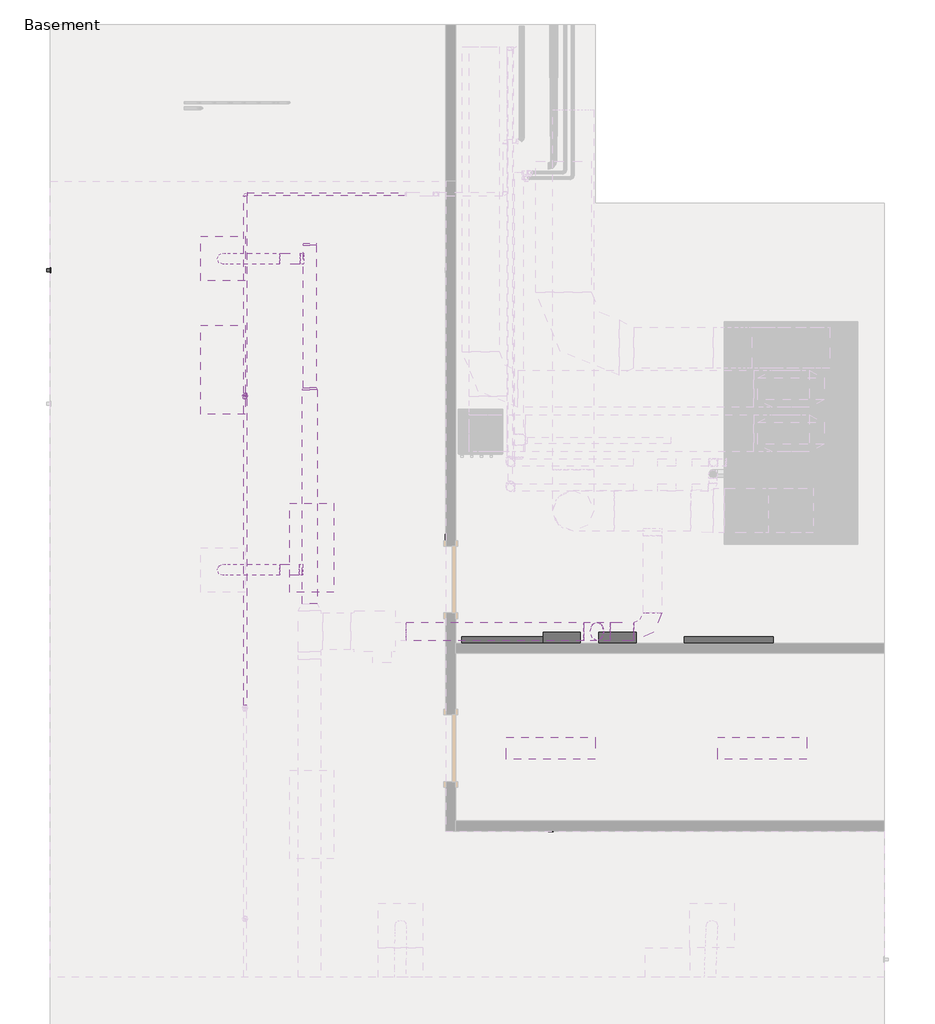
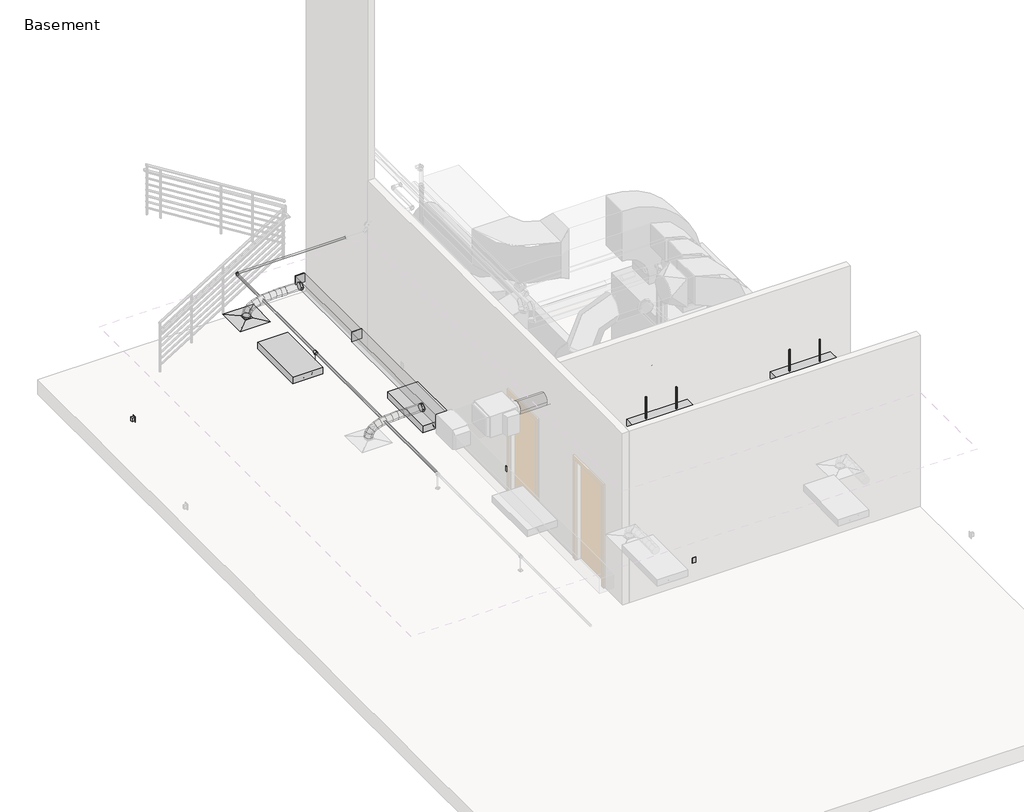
# One storey, part 4 of 6: 9 duct segments, 7 duct fittings, 6 light fixtures, 4 pipe segments, 4 proxies, 3 pipe fittings, 1 air terminal, 1 fire suppression terminal, 1 switching device.
"""IFC4 building model written with IfcOpenShell, lengths in millimetres."""

from ifc_helpers import new_model, si_unit, point, frame, frame_2d, origin, place, context, project, spatial, polyline, circle_curve, ellipse_curve, trimmed, segment, composite_curve, outline, extrude, transform, mapped, element, save
from ifc_brep_helpers import plane_surface, cylinder_surface, advanced_brep
from components import rectangular_diffuser_round_connection_24x24_6_neck_a21b6d18, proxy_208v_mcb_lighting_and_appliance_panelboard_surface_b4f8874f, proxy_220v_mcb_lighting_and_appliance_panelboard_surface_634b3572, receptacle_gfci_367a9a66, rectangular_duct_endcap_standard_257c1d85, rectangular_duct_transition_standard_54502f12, round_duct_elbow_1_d_c5153b07, round_duct_elbow_1_d_1086c2ae, round_duct_takeoff_standard_3fff5fc7, fire_suppression_terminal_51680e4f, pendant_lighting_fixture_1x4_120v_a2b2c7f0, light_fixture_84ca9390, strip_lighting_fixtures_c3f5e0e3, pipe_elbow1_standard_2_557be1fc, pipe_tee_standard_7127fd44, pipe_transition_eccentric_standard_4aeee749

model = new_model("IFC4")

# Units and contexts
model_context = context("Model", 3, world=origin())
ifc_project = project(units=[si_unit("LENGTHUNIT", "METRE", prefix="MILLI")], contexts=[model_context])

# Site, building, storey
site = spatial("IfcSite", under=ifc_project)
building = spatial("IfcBuilding", under=site)
storey = spatial("IfcBuildingStorey", under=building, Name="Basement", Elevation=-3657.6)

# Air terminal
placement = place(None, origin())
rectangular_diffuser_round_connection_24x24_6_neck_shape = rectangular_diffuser_round_connection_24x24_6_neck_a21b6d18(model_context)
element("IfcAirTerminal", 1, ObjectType="Rectangular Diffuser - Round Connection : 24x24 - 6 Neck", at=placement, inside=storey, context=model_context, shape_type="MappedRepresentation", body=[
    mapped(rectangular_diffuser_round_connection_24x24_6_neck_shape, transform((-2104.8439612, 8396.709643, -1219.2), x_axis=(1.0, 0.0, 0.0), y_axis=(0.0, 1.0, 0.0), z_axis=(0.0, 0.0, 1.0))),
])

# Proxies
proxy_208v_mcb_lighting_and_appliance_panelboard_surface_shape = proxy_208v_mcb_lighting_and_appliance_panelboard_surface_b4f8874f(model_context)
element("IfcBuildingElementProxy", 2, Name="208V MCB Lighting and Appliance Panelboard - Surface : 225A", ObjectType="208V MCB Lighting and Appliance Panelboard - Surface : 225A", at=placement, inside=storey, context=model_context, shape_type="MappedRepresentation", body=[
    mapped(proxy_208v_mcb_lighting_and_appliance_panelboard_surface_shape, transform((3400.6155094, 3126.209643, -2202.2943297), x_axis=(-1.0, 0.0, 0.0), y_axis=(0.0, 0.0, 1.0), z_axis=(0.0, 1.0, 0.0))),
])
proxy_220v_mcb_lighting_and_appliance_panelboard_surface_shape = proxy_220v_mcb_lighting_and_appliance_panelboard_surface_634b3572(model_context)
element("IfcBuildingElementProxy", 3, Name="220V MCB Lighting and Appliance Panelboard - Surface : 400A", ObjectType="220V MCB Lighting and Appliance Panelboard - Surface : 400A", at=placement, inside=storey, context=model_context, shape_type="MappedRepresentation", body=[
    mapped(proxy_220v_mcb_lighting_and_appliance_panelboard_surface_shape, transform((2638.6155094, 3126.209643, -2202.2943297), x_axis=(-1.0, 0.0, 0.0), y_axis=(0.0, 0.0, 1.0), z_axis=(0.0, 1.0, 0.0))),
])
receptacle_gfci_shape = receptacle_gfci_367a9a66(model_context)
element("IfcBuildingElementProxy", 4, Name="Receptacle : Standard", ObjectType="Receptacle : Standard", at=placement, inside=storey, context=model_context, shape_type="MappedRepresentation", body=[
    mapped(receptacle_gfci_shape, transform((949.5060388, 4580.359643, -3200.4), x_axis=(0.0, -1.0, 0.0), y_axis=(0.0, 0.0, 1.0), z_axis=(-1.0, 0.0, 0.0))),
])
element("IfcBuildingElementProxy", 5, Name="Receptacle : Standard", ObjectType="Receptacle : Standard", at=placement, inside=storey, context=model_context, shape_type="MappedRepresentation", body=[
    mapped(receptacle_gfci_shape, transform((2390.9560388, 548.109643, -3200.4), x_axis=(1.0, 0.0, 0.0), y_axis=(0.0, 0.0, 1.0), z_axis=(0.0, -1.0, 0.0))),
])

# Duct fittings
rectangular_duct_endcap_standard_shape = rectangular_duct_endcap_standard_257c1d85(model_context)
element("IfcDuctFitting", 6, ObjectType="Rectangular Duct Endcap : Standard", at=placement, inside=storey, context=model_context, shape_type="MappedRepresentation", body=[
    mapped(rectangular_duct_endcap_standard_shape, transform((-915.1844462, 8581.3747623, -914.4), x_axis=(0.0, 1.0, 0.0), y_axis=(-1.0, 0.0, 0.0), z_axis=(0.0, 0.0, 1.0))),
])
rectangular_duct_transition_standard_shape = rectangular_duct_transition_standard_54502f12(model_context)
element("IfcDuctFitting", 7, ObjectType="Rectangular Duct Transition : Standard", at=placement, inside=storey, context=model_context, shape_type="MappedRepresentation", body=[
    mapped(rectangular_duct_transition_standard_shape, transform((-915.1844462, 6600.1747623, -914.4), x_axis=(0.0, 1.0, 0.0), y_axis=(1.0, 0.0, 0.0), z_axis=(0.0, 0.0, -1.0))),
])
round_duct_elbow_1_d_shape = round_duct_elbow_1_d_c5153b07(model_context)
element("IfcDuctFitting", 8, ObjectType="Round Duct Elbow : 1 D", at=placement, inside=storey, context=model_context, shape_type="MappedRepresentation", body=[
    mapped(round_duct_elbow_1_d_shape, transform((3784.5017441, 3286.7197518, -762.0), x_axis=(0.0, -1.0, 0.0), y_axis=(-1.0, 0.0, 0.0), z_axis=(0.0, 0.0, -1.0))),
])
round_duct_elbow_1_d_2_shape = round_duct_elbow_1_d_1086c2ae(model_context)
element("IfcDuctFitting", 9, ObjectType="Round Duct Elbow : 1 D", at=placement, inside=storey, context=model_context, shape_type="MappedRepresentation", body=[
    mapped(round_duct_elbow_1_d_2_shape, transform((3098.7017441, 3286.7197518, -762.0), x_axis=(-1.0, 0.0, 0.0), y_axis=(0.0, 0.0, -1.0), z_axis=(0.0, -1.0, 0.0))),
])
element("IfcDuctFitting", 10, ObjectType="Round Duct Elbow : 1 D", at=placement, inside=storey, context=model_context, shape_type="MappedRepresentation", body=[
    mapped(round_duct_elbow_1_d_2_shape, transform((2946.3017441, 3286.7197518, -914.4), x_axis=(-0.7071067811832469, 0.0, -0.7071067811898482), y_axis=(-0.7071067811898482, 0.0, 0.7071067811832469), z_axis=(0.0, 1.0, 0.0))),
])
round_duct_takeoff_standard_shape = round_duct_takeoff_standard_3fff5fc7(model_context)
element("IfcDuctFitting", 11, ObjectType="Round Duct Takeoff : Standard", at=placement, inside=storey, context=model_context, shape_type="MappedRepresentation", body=[
    mapped(round_duct_takeoff_standard_shape, transform((-1016.7844462, 4129.509643, -914.4), x_axis=(-1.0, 0.0, 0.0), y_axis=(0.0, 1.0, 0.0), z_axis=(0.0, 0.0, -1.0))),
])
element("IfcDuctFitting", 12, ObjectType="Round Duct Takeoff : Standard", at=placement, inside=storey, context=model_context, shape_type="MappedRepresentation", body=[
    mapped(round_duct_takeoff_standard_shape, transform((-1004.0844462, 8396.709643, -914.4), x_axis=(-1.0, 0.0, 0.0), y_axis=(0.0, 1.0, 0.0), z_axis=(0.0, 0.0, -1.0))),
])

# Duct segments
element("IfcDuctSegment", 13, ObjectType="Flex - Round", at=placement, inside=storey, context=model_context, shape_type="AdvancedBrep", body=[
    advanced_brep(
    [(-1321.5844462, 4053.309643, -914.4), (-1321.9103772, 4129.509643, -990.5993029), (-1321.5844462, 4205.709643, -914.4), (-1321.2585151, 4129.509643, -838.2006971), (-1420.6484935, 4053.309643, -913.9762684), (-1420.6426271, 4129.509643, -990.1769906), (-1420.6484935, 4205.709643, -913.9762684), (-1420.6543598, 4129.509643, -837.7755463), (-1530.9933085, 4053.309643, -914.4652419), (-1529.4916468, 4129.509643, -990.6593357), (-1530.9933085, 4205.709643, -914.4652419), (-1532.4949701, 4129.509643, -838.2711481), (-1646.4947894, 4053.309643, -918.5071729), (-1641.7676179, 4129.509643, -994.5883912), (-1646.4947894, 4205.709643, -918.5071729), (-1651.221961, 4129.509643, -842.4259546), (-1761.0288346, 4053.309643, -928.7423138), (-1750.9609341, 4129.509643, -1004.3462669), (-1761.0288346, 4205.709643, -928.7423138), (-1771.096735, 4129.509643, -853.1383607), (-1868.4713421, 4053.309643, -947.8109169), (-1849.9779926, 4129.509643, -1021.9195443), (-1868.4713421, 4205.709643, -947.8109169), (-1886.9646916, 4129.509643, -873.7022895), (-1962.6982103, 4053.309643, -978.3532347), (-1931.0404648, 4129.509643, -1048.1948078), (-1962.6982103, 4205.709643, -978.3532347), (-1994.3559558, 4129.509643, -908.5116617), (-2037.5853374, 4053.309643, -1023.0095196), (-1986.8033404, 4129.509643, -1081.4470228), (-2037.5853374, 4205.709643, -1023.0095196), (-2088.3673345, 4129.509643, -964.5720163), (-2087.0086216, 4053.309643, -1084.4200239), (-2016.4487433, 4129.509643, -1118.2826798), (-2087.0086216, 4205.709643, -1084.4200239), (-2157.5685, 4129.509643, -1050.557368), (-2104.8439612, 4053.309643, -1165.225), (-2179.2529971, 4129.509643, -1148.8013775), (-2104.8439612, 4205.709643, -1165.225), (-2030.4349253, 4129.509643, -1181.6486225)],
    [
        (0, 1, circle_curve(frame((-1321.5844462, 4129.509643, -914.4), z_axis=(0.9999908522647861, 0.0, -0.004277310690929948), x_axis=(0.0, -1.0, 0.0)), 76.2)),
        (1, 2, circle_curve(frame((-1321.5844462, 4129.509643, -914.4), z_axis=(0.9999908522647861, 0.0, -0.004277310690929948), x_axis=(0.0, -1.0, 0.0)), 76.2)),
        (2, 3, circle_curve(frame((-1321.5844462, 4129.509643, -914.4), z_axis=(0.9999908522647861, 0.0, -0.004277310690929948), x_axis=(0.0, -1.0, 0.0)), 76.2)),
        (3, 0, circle_curve(frame((-1321.5844462, 4129.509643, -914.4), z_axis=(0.9999908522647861, 0.0, -0.004277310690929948), x_axis=(0.0, -1.0, 0.0)), 76.2)),
        (0, 4),
        (4, 5, ellipse_curve(frame((-1420.6484935, 4129.509643, -913.9762684), z_axis=(0.9999999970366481, 0.0, 7.698508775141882e-05), x_axis=(7.698508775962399e-05, 3.651241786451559e-12, -0.999999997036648)), 76.2007224, 76.2)),
        (5, 1),
        (5, 6, ellipse_curve(frame((-1420.6484935, 4129.509643, -913.9762684), z_axis=(0.9999999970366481, 0.0, 7.698508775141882e-05), x_axis=(7.698508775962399e-05, 3.651241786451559e-12, -0.999999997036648)), 76.2007224, 76.2)),
        (6, 2),
        (6, 7, ellipse_curve(frame((-1420.6484935, 4129.509643, -913.9762684), z_axis=(0.9999999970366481, 0.0, 7.698508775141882e-05), x_axis=(7.698508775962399e-05, 3.651241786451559e-12, -0.999999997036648)), 76.2007224, 76.2)),
        (7, 3),
        (7, 4, ellipse_curve(frame((-1420.6484935, 4129.509643, -913.9762684), z_axis=(0.9999999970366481, 0.0, 7.698508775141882e-05), x_axis=(7.698508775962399e-05, 3.651241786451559e-12, -0.999999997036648)), 76.2007224, 76.2)),
        (4, 8),
        (8, 9, ellipse_curve(frame((-1530.9933085, 4129.509643, -914.4652419), z_axis=(0.9998058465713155, 0.0, 0.019704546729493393), x_axis=(0.019704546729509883, 0.0, -0.9998058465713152)), 76.20889, 76.2)),
        (9, 5),
        (9, 10, ellipse_curve(frame((-1530.9933085, 4129.509643, -914.4652419), z_axis=(0.9998058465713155, 0.0, 0.019704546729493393), x_axis=(0.019704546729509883, 0.0, -0.9998058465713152)), 76.20889, 76.2)),
        (10, 6),
        (10, 11, ellipse_curve(frame((-1530.9933085, 4129.509643, -914.4652419), z_axis=(0.9998058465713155, 0.0, 0.019704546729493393), x_axis=(0.019704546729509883, 0.0, -0.9998058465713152)), 76.20889, 76.2)),
        (11, 7),
        (11, 8, ellipse_curve(frame((-1530.9933085, 4129.509643, -914.4652419), z_axis=(0.9998058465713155, 0.0, 0.019704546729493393), x_axis=(0.019704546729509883, 0.0, -0.9998058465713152)), 76.20889, 76.2)),
        (8, 12),
        (12, 13, ellipse_curve(frame((-1646.4947894, 4129.509643, -918.5071729), z_axis=(0.9980753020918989, 0.0, 0.06201363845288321), x_axis=(0.062013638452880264, 0.0, -0.9980753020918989)), 76.227934, 76.2)),
        (13, 9),
        (13, 14, ellipse_curve(frame((-1646.4947894, 4129.509643, -918.5071729), z_axis=(0.9980753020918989, 0.0, 0.06201363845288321), x_axis=(0.062013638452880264, 0.0, -0.9980753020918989)), 76.227934, 76.2)),
        (14, 10),
        (14, 15, ellipse_curve(frame((-1646.4947894, 4129.509643, -918.5071729), z_axis=(0.9980753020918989, 0.0, 0.06201363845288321), x_axis=(0.062013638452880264, 0.0, -0.9980753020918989)), 76.227934, 76.2)),
        (15, 11),
        (15, 12, ellipse_curve(frame((-1646.4947894, 4129.509643, -918.5071729), z_axis=(0.9980753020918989, 0.0, 0.06201363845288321), x_axis=(0.062013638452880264, 0.0, -0.9980753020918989)), 76.227934, 76.2)),
        (12, 16),
        (16, 17, ellipse_curve(frame((-1761.0288346, 4129.509643, -928.7423138), z_axis=(0.9912495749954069, 0.0, 0.13200106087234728), x_axis=(0.13200106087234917, 0.0, -0.9912495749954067)), 76.2713599, 76.2)),
        (17, 13),
        (17, 18, ellipse_curve(frame((-1761.0288346, 4129.509643, -928.7423138), z_axis=(0.9912495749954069, 0.0, 0.13200106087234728), x_axis=(0.13200106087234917, 0.0, -0.9912495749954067)), 76.2713599, 76.2)),
        (18, 14),
        (18, 19, ellipse_curve(frame((-1761.0288346, 4129.509643, -928.7423138), z_axis=(0.9912495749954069, 0.0, 0.13200106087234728), x_axis=(0.13200106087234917, 0.0, -0.9912495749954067)), 76.2713599, 76.2)),
        (19, 15),
        (19, 16, ellipse_curve(frame((-1761.0288346, 4129.509643, -928.7423138), z_axis=(0.9912495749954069, 0.0, 0.13200106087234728), x_axis=(0.13200106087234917, 0.0, -0.9912495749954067)), 76.2713599, 76.2)),
        (16, 20),
        (20, 21, ellipse_curve(frame((-1868.4713421, 4129.509643, -947.8109169), z_axis=(0.97024655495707, 0.0, 0.2421190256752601), x_axis=(0.2421190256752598, 0.0, -0.9702465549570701)), 76.3812322, 76.2)),
        (21, 17),
        (21, 22, ellipse_curve(frame((-1868.4713421, 4129.509643, -947.8109169), z_axis=(0.97024655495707, 0.0, 0.2421190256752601), x_axis=(0.2421190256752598, 0.0, -0.9702465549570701)), 76.3812322, 76.2)),
        (22, 18),
        (22, 23, ellipse_curve(frame((-1868.4713421, 4129.509643, -947.8109169), z_axis=(0.97024655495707, 0.0, 0.2421190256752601), x_axis=(0.2421190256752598, 0.0, -0.9702465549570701)), 76.3812322, 76.2)),
        (23, 19),
        (23, 20, ellipse_curve(frame((-1868.4713421, 4129.509643, -947.8109169), z_axis=(0.97024655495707, 0.0, 0.2421190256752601), x_axis=(0.2421190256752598, 0.0, -0.9702465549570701)), 76.3812322, 76.2)),
        (20, 24),
        (24, 25, ellipse_curve(frame((-1962.6982103, 4129.509643, -978.3532347), z_axis=(0.910800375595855, 0.0, 0.41284703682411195), x_axis=(0.4128470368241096, 0.0, -0.9108003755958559)), 76.6815374, 76.2)),
        (25, 21),
        (25, 26, ellipse_curve(frame((-1962.6982103, 4129.509643, -978.3532347), z_axis=(0.910800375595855, 0.0, 0.41284703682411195), x_axis=(0.4128470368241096, 0.0, -0.9108003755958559)), 76.6815374, 76.2)),
        (26, 22),
        (26, 27, ellipse_curve(frame((-1962.6982103, 4129.509643, -978.3532347), z_axis=(0.910800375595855, 0.0, 0.41284703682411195), x_axis=(0.4128470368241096, 0.0, -0.9108003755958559)), 76.6815374, 76.2)),
        (27, 23),
        (27, 24, ellipse_curve(frame((-1962.6982103, 4129.509643, -978.3532347), z_axis=(0.910800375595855, 0.0, 0.41284703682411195), x_axis=(0.4128470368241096, 0.0, -0.9108003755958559)), 76.6815374, 76.2)),
        (24, 28),
        (28, 29, ellipse_curve(frame((-2037.5853374, 4129.509643, -1023.0095196), z_axis=(0.7548179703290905, 0.0, 0.6559343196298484), x_axis=(0.6559343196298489, 0.0, -0.7548179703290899)), 77.4193323, 76.2)),
        (29, 25),
        (29, 30, ellipse_curve(frame((-2037.5853374, 4129.509643, -1023.0095196), z_axis=(0.7548179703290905, 0.0, 0.6559343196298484), x_axis=(0.6559343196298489, 0.0, -0.7548179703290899)), 77.4193323, 76.2)),
        (30, 26),
        (30, 31, ellipse_curve(frame((-2037.5853374, 4129.509643, -1023.0095196), z_axis=(0.7548179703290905, 0.0, 0.6559343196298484), x_axis=(0.6559343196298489, 0.0, -0.7548179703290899)), 77.4193323, 76.2)),
        (31, 27),
        (31, 28, ellipse_curve(frame((-2037.5853374, 4129.509643, -1023.0095196), z_axis=(0.7548179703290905, 0.0, 0.6559343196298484), x_axis=(0.6559343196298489, 0.0, -0.7548179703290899)), 77.4193323, 76.2)),
        (28, 32),
        (32, 33, ellipse_curve(frame((-2087.0086216, 4129.509643, -1084.4200239), z_axis=(0.4326678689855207, 0.0, 0.9015533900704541), x_axis=(0.9015533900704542, 0.0, -0.43266786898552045)), 78.2647807, 76.2)),
        (33, 29),
        (33, 34, ellipse_curve(frame((-2087.0086216, 4129.509643, -1084.4200239), z_axis=(0.4326678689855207, 0.0, 0.9015533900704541), x_axis=(0.9015533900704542, 0.0, -0.43266786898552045)), 78.2647807, 76.2)),
        (34, 30),
        (34, 35, ellipse_curve(frame((-2087.0086216, 4129.509643, -1084.4200239), z_axis=(0.4326678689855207, 0.0, 0.9015533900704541), x_axis=(0.9015533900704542, 0.0, -0.43266786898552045)), 78.2647807, 76.2)),
        (35, 31),
        (35, 32, ellipse_curve(frame((-2087.0086216, 4129.509643, -1084.4200239), z_axis=(0.4326678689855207, 0.0, 0.9015533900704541), x_axis=(0.9015533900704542, 0.0, -0.43266786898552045)), 78.2647807, 76.2)),
        (36, 37, circle_curve(frame((-2104.8439612, 4129.509643, -1165.225), z_axis=(-0.2155331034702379, 0.0, -0.9764965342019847), x_axis=(0.0, -1.0, 0.0)), 76.2)),
        (37, 38, circle_curve(frame((-2104.8439612, 4129.509643, -1165.225), z_axis=(-0.2155331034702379, 0.0, -0.9764965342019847), x_axis=(0.0, -1.0, 0.0)), 76.2)),
        (38, 39, circle_curve(frame((-2104.8439612, 4129.509643, -1165.225), z_axis=(-0.2155331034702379, 0.0, -0.9764965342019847), x_axis=(0.0, -1.0, 0.0)), 76.2)),
        (39, 36, circle_curve(frame((-2104.8439612, 4129.509643, -1165.225), z_axis=(-0.2155331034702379, 0.0, -0.9764965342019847), x_axis=(0.0, -1.0, 0.0)), 76.2)),
        (32, 36),
        (39, 33),
        (38, 34),
        (37, 35),
    ],
    [
        plane_surface(frame((-1321.5844462, 4053.309643, -914.4), z_axis=(0.9999908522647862, 0.0, -0.0042773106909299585), x_axis=(0.0042773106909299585, -1.6610712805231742e-11, 0.9999908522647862))),
        cylinder_surface(frame((-1321.5844462, 4129.509643, -914.4), z_axis=(0.9999908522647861, 0.0, -0.004277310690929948), x_axis=(0.0, -1.0, 0.0)), 76.2),
        cylinder_surface(frame((-1420.6484935, 4129.509643, -913.9762684), z_axis=(0.9999901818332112, 0.0, 0.004431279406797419), x_axis=(0.0, -1.0, 0.0)), 76.2),
        cylinder_surface(frame((-1530.9933085, 4129.509643, -914.4652419), z_axis=(0.9993882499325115, 0.0, 0.03497321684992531), x_axis=(0.0, -1.0, 0.0)), 76.2),
        cylinder_surface(frame((-1646.4947894, 4129.509643, -918.5071729), z_axis=(0.9960308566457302, 0.0, 0.08900860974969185), x_axis=(0.0, -1.0, 0.0)), 76.2),
        cylinder_surface(frame((-1761.0288346, 4129.509643, -928.7423138), z_axis=(0.9846134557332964, 0.0, 0.17474651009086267), x_axis=(0.0, -1.0, 0.0)), 76.2),
        cylinder_surface(frame((-1868.4713421, 4129.509643, -947.8109169), z_axis=(0.951275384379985, 0.0, 0.3083425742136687), x_axis=(0.0, -1.0, 0.0)), 76.2),
        cylinder_surface(frame((-1962.6982103, 4129.509643, -978.3532347), z_axis=(0.8588862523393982, 0.0, 0.5121663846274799), x_axis=(0.0, -1.0, 0.0)), 76.2),
        cylinder_surface(frame((-2037.5853374, 4129.509643, -1023.0095196), z_axis=(0.6269733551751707, 0.0, 0.7790406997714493), x_axis=(0.0, -1.0, 0.0)), 76.2),
        plane_surface(frame((-2104.8439612, 4205.709643, -1165.225), z_axis=(-0.2155331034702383, 0.0, -0.9764965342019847), x_axis=(0.9764965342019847, 0.0, -0.2155331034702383))),
        cylinder_surface(frame((-2087.0086216, 4129.509643, -1084.4200239), z_axis=(0.2155331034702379, 0.0, 0.9764965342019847), x_axis=(0.0, -1.0, 0.0)), 76.2),
    ],
    [
        (0, [[1, 2, 3, 4]]),
        (1, [[-1, 5, 6, 7]]),
        (1, [[-2, -7, 8, 9]]),
        (1, [[-3, -9, 10, 11]]),
        (1, [[-4, -11, 12, -5]]),
        (2, [[-6, 13, 14, 15]]),
        (2, [[-8, -15, 16, 17]]),
        (2, [[-10, -17, 18, 19]]),
        (2, [[-12, -19, 20, -13]]),
        (3, [[-14, 21, 22, 23]]),
        (3, [[-16, -23, 24, 25]]),
        (3, [[-18, -25, 26, 27]]),
        (3, [[-20, -27, 28, -21]]),
        (4, [[-22, 29, 30, 31]]),
        (4, [[-24, -31, 32, 33]]),
        (4, [[-26, -33, 34, 35]]),
        (4, [[-28, -35, 36, -29]]),
        (5, [[-30, 37, 38, 39]]),
        (5, [[-32, -39, 40, 41]]),
        (5, [[-34, -41, 42, 43]]),
        (5, [[-36, -43, 44, -37]]),
        (6, [[-38, 45, 46, 47]]),
        (6, [[-40, -47, 48, 49]]),
        (6, [[-42, -49, 50, 51]]),
        (6, [[-44, -51, 52, -45]]),
        (7, [[-46, 53, 54, 55]]),
        (7, [[-48, -55, 56, 57]]),
        (7, [[-50, -57, 58, 59]]),
        (7, [[-52, -59, 60, -53]]),
        (8, [[-54, 61, 62, 63]]),
        (8, [[-56, -63, 64, 65]]),
        (8, [[-58, -65, 66, 67]]),
        (8, [[-60, -67, 68, -61]]),
        (9, [[69, 70, 71, 72]]),
        (10, [[-62, 73, -72, 74]]),
        (10, [[-64, -74, -71, 75]]),
        (10, [[-66, -75, -70, 76]]),
        (10, [[-68, -76, -69, -73]]),
    ],
),
])
element("IfcDuctSegment", 14, ObjectType="Flex - Round", at=placement, inside=storey, context=model_context, shape_type="AdvancedBrep", body=[
    advanced_brep(
    [(-1321.5844462, 8320.509643, -914.4), (-1321.9103772, 8396.709643, -990.5993029), (-1321.5844462, 8472.909643, -914.4), (-1321.2585151, 8396.709643, -838.2006971), (-1420.6484935, 8320.509643, -913.9762684), (-1420.6426271, 8396.709643, -990.1769906), (-1420.6484935, 8472.909643, -913.9762684), (-1420.6543598, 8396.709643, -837.7755463), (-1530.9933085, 8320.509643, -914.4652419), (-1529.4916468, 8396.709643, -990.6593357), (-1530.9933085, 8472.909643, -914.4652419), (-1532.4949701, 8396.709643, -838.2711481), (-1646.4947894, 8320.509643, -918.5071729), (-1641.7676179, 8396.709643, -994.5883912), (-1646.4947894, 8472.909643, -918.5071729), (-1651.221961, 8396.709643, -842.4259546), (-1761.0288346, 8320.509643, -928.7423138), (-1750.9609341, 8396.709643, -1004.3462669), (-1761.0288346, 8472.909643, -928.7423138), (-1771.096735, 8396.709643, -853.1383607), (-1868.4713421, 8320.509643, -947.8109169), (-1849.9779926, 8396.709643, -1021.9195443), (-1868.4713421, 8472.909643, -947.8109169), (-1886.9646916, 8396.709643, -873.7022895), (-1962.6982103, 8320.509643, -978.3532347), (-1931.0404648, 8396.709643, -1048.1948078), (-1962.6982103, 8472.909643, -978.3532347), (-1994.3559558, 8396.709643, -908.5116617), (-2037.5853374, 8320.509643, -1023.0095196), (-1986.8033404, 8396.709643, -1081.4470228), (-2037.5853374, 8472.909643, -1023.0095196), (-2088.3673345, 8396.709643, -964.5720163), (-2087.0086216, 8320.509643, -1084.4200239), (-2016.4487433, 8396.709643, -1118.2826798), (-2087.0086216, 8472.909643, -1084.4200239), (-2157.5685, 8396.709643, -1050.557368), (-2104.8439612, 8320.509643, -1165.225), (-2179.2529971, 8396.709643, -1148.8013775), (-2104.8439612, 8472.909643, -1165.225), (-2030.4349253, 8396.709643, -1181.6486225)],
    [
        (0, 1, circle_curve(frame((-1321.5844462, 8396.709643, -914.4), z_axis=(0.9999908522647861, 0.0, -0.004277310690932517), x_axis=(0.0, -1.0, 0.0)), 76.2)),
        (1, 2, circle_curve(frame((-1321.5844462, 8396.709643, -914.4), z_axis=(0.9999908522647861, 0.0, -0.004277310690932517), x_axis=(0.0, -1.0, 0.0)), 76.2)),
        (2, 3, circle_curve(frame((-1321.5844462, 8396.709643, -914.4), z_axis=(0.9999908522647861, 0.0, -0.004277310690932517), x_axis=(0.0, -1.0, 0.0)), 76.2)),
        (3, 0, circle_curve(frame((-1321.5844462, 8396.709643, -914.4), z_axis=(0.9999908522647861, 0.0, -0.004277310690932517), x_axis=(0.0, -1.0, 0.0)), 76.2)),
        (0, 4),
        (4, 5, ellipse_curve(frame((-1420.6484935, 8396.709643, -913.9762684), z_axis=(0.9999999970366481, 0.0, 7.698508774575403e-05), x_axis=(7.698508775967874e-05, 1.3835043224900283e-12, -0.9999999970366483)), 76.2007224, 76.2)),
        (5, 1),
        (5, 6, ellipse_curve(frame((-1420.6484935, 8396.709643, -913.9762684), z_axis=(0.9999999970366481, 0.0, 7.698508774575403e-05), x_axis=(7.698508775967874e-05, 1.3835043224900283e-12, -0.9999999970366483)), 76.2007224, 76.2)),
        (6, 2),
        (6, 7, ellipse_curve(frame((-1420.6484935, 8396.709643, -913.9762684), z_axis=(0.9999999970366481, 0.0, 7.698508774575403e-05), x_axis=(7.698508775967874e-05, 1.3835043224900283e-12, -0.9999999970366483)), 76.2007224, 76.2)),
        (7, 3),
        (7, 4, ellipse_curve(frame((-1420.6484935, 8396.709643, -913.9762684), z_axis=(0.9999999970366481, 0.0, 7.698508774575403e-05), x_axis=(7.698508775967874e-05, 1.3835043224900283e-12, -0.9999999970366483)), 76.2007224, 76.2)),
        (4, 8),
        (8, 9, ellipse_curve(frame((-1530.9933085, 8396.709643, -914.4652419), z_axis=(0.9998058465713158, 0.0, 0.019704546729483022), x_axis=(0.019704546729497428, 0.0, -0.9998058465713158)), 76.20889, 76.2)),
        (9, 5),
        (9, 10, ellipse_curve(frame((-1530.9933085, 8396.709643, -914.4652419), z_axis=(0.9998058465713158, 0.0, 0.019704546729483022), x_axis=(0.019704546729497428, 0.0, -0.9998058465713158)), 76.20889, 76.2)),
        (10, 6),
        (10, 11, ellipse_curve(frame((-1530.9933085, 8396.709643, -914.4652419), z_axis=(0.9998058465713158, 0.0, 0.019704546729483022), x_axis=(0.019704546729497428, 0.0, -0.9998058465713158)), 76.20889, 76.2)),
        (11, 7),
        (11, 8, ellipse_curve(frame((-1530.9933085, 8396.709643, -914.4652419), z_axis=(0.9998058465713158, 0.0, 0.019704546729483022), x_axis=(0.019704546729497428, 0.0, -0.9998058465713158)), 76.20889, 76.2)),
        (8, 12),
        (12, 13, ellipse_curve(frame((-1646.4947894, 8396.709643, -918.5071729), z_axis=(0.9980753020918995, 0.0, 0.06201363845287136), x_axis=(0.06201363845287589, 0.0, -0.9980753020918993)), 76.227934, 76.2)),
        (13, 9),
        (13, 14, ellipse_curve(frame((-1646.4947894, 8396.709643, -918.5071729), z_axis=(0.9980753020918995, 0.0, 0.06201363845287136), x_axis=(0.06201363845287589, 0.0, -0.9980753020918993)), 76.227934, 76.2)),
        (14, 10),
        (14, 15, ellipse_curve(frame((-1646.4947894, 8396.709643, -918.5071729), z_axis=(0.9980753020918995, 0.0, 0.06201363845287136), x_axis=(0.06201363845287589, 0.0, -0.9980753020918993)), 76.227934, 76.2)),
        (15, 11),
        (15, 12, ellipse_curve(frame((-1646.4947894, 8396.709643, -918.5071729), z_axis=(0.9980753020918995, 0.0, 0.06201363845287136), x_axis=(0.06201363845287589, 0.0, -0.9980753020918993)), 76.227934, 76.2)),
        (12, 16),
        (16, 17, ellipse_curve(frame((-1761.0288346, 8396.709643, -928.7423138), z_axis=(0.9912495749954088, 0.0, 0.1320010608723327), x_axis=(0.13200106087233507, 0.0, -0.9912495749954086)), 76.2713599, 76.2)),
        (17, 13),
        (17, 18, ellipse_curve(frame((-1761.0288346, 8396.709643, -928.7423138), z_axis=(0.9912495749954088, 0.0, 0.1320010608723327), x_axis=(0.13200106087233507, 0.0, -0.9912495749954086)), 76.2713599, 76.2)),
        (18, 14),
        (18, 19, ellipse_curve(frame((-1761.0288346, 8396.709643, -928.7423138), z_axis=(0.9912495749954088, 0.0, 0.1320010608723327), x_axis=(0.13200106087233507, 0.0, -0.9912495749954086)), 76.2713599, 76.2)),
        (19, 15),
        (19, 16, ellipse_curve(frame((-1761.0288346, 8396.709643, -928.7423138), z_axis=(0.9912495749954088, 0.0, 0.1320010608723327), x_axis=(0.13200106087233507, 0.0, -0.9912495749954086)), 76.2713599, 76.2)),
        (16, 20),
        (20, 21, ellipse_curve(frame((-1868.4713421, 8396.709643, -947.8109169), z_axis=(0.9702465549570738, 0.0, 0.24211902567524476), x_axis=(0.24211902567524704, 0.0, -0.9702465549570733)), 76.3812322, 76.2)),
        (21, 17),
        (21, 22, ellipse_curve(frame((-1868.4713421, 8396.709643, -947.8109169), z_axis=(0.9702465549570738, 0.0, 0.24211902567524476), x_axis=(0.24211902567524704, 0.0, -0.9702465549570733)), 76.3812322, 76.2)),
        (22, 18),
        (22, 23, ellipse_curve(frame((-1868.4713421, 8396.709643, -947.8109169), z_axis=(0.9702465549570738, 0.0, 0.24211902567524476), x_axis=(0.24211902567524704, 0.0, -0.9702465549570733)), 76.3812322, 76.2)),
        (23, 19),
        (23, 20, ellipse_curve(frame((-1868.4713421, 8396.709643, -947.8109169), z_axis=(0.9702465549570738, 0.0, 0.24211902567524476), x_axis=(0.24211902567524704, 0.0, -0.9702465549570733)), 76.3812322, 76.2)),
        (20, 24),
        (24, 25, ellipse_curve(frame((-1962.6982103, 8396.709643, -978.3532347), z_axis=(0.9108003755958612, 0.0, 0.41284703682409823), x_axis=(0.4128470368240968, 0.0, -0.9108003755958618)), 76.6815374, 76.2)),
        (25, 21),
        (25, 26, ellipse_curve(frame((-1962.6982103, 8396.709643, -978.3532347), z_axis=(0.9108003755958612, 0.0, 0.41284703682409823), x_axis=(0.4128470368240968, 0.0, -0.9108003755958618)), 76.6815374, 76.2)),
        (26, 22),
        (26, 27, ellipse_curve(frame((-1962.6982103, 8396.709643, -978.3532347), z_axis=(0.9108003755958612, 0.0, 0.41284703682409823), x_axis=(0.4128470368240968, 0.0, -0.9108003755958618)), 76.6815374, 76.2)),
        (27, 23),
        (27, 24, ellipse_curve(frame((-1962.6982103, 8396.709643, -978.3532347), z_axis=(0.9108003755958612, 0.0, 0.41284703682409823), x_axis=(0.4128470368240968, 0.0, -0.9108003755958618)), 76.6815374, 76.2)),
        (24, 28),
        (28, 29, ellipse_curve(frame((-2037.5853374, 8396.709643, -1023.0095196), z_axis=(0.7548179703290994, 0.0, 0.6559343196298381), x_axis=(0.65593431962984, 0.0, -0.7548179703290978)), 77.4193323, 76.2)),
        (29, 25),
        (29, 30, ellipse_curve(frame((-2037.5853374, 8396.709643, -1023.0095196), z_axis=(0.7548179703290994, 0.0, 0.6559343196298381), x_axis=(0.65593431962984, 0.0, -0.7548179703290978)), 77.4193323, 76.2)),
        (30, 26),
        (30, 31, ellipse_curve(frame((-2037.5853374, 8396.709643, -1023.0095196), z_axis=(0.7548179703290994, 0.0, 0.6559343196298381), x_axis=(0.65593431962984, 0.0, -0.7548179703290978)), 77.4193323, 76.2)),
        (31, 27),
        (31, 28, ellipse_curve(frame((-2037.5853374, 8396.709643, -1023.0095196), z_axis=(0.7548179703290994, 0.0, 0.6559343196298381), x_axis=(0.65593431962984, 0.0, -0.7548179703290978)), 77.4193323, 76.2)),
        (28, 32),
        (32, 33, ellipse_curve(frame((-2087.0086216, 8396.709643, -1084.4200239), z_axis=(0.43266786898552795, 0.0, 0.9015533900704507), x_axis=(0.9015533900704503, 0.0, -0.4326678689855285)), 78.2647807, 76.2)),
        (33, 29),
        (33, 34, ellipse_curve(frame((-2087.0086216, 8396.709643, -1084.4200239), z_axis=(0.43266786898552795, 0.0, 0.9015533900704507), x_axis=(0.9015533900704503, 0.0, -0.4326678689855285)), 78.2647807, 76.2)),
        (34, 30),
        (34, 35, ellipse_curve(frame((-2087.0086216, 8396.709643, -1084.4200239), z_axis=(0.43266786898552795, 0.0, 0.9015533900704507), x_axis=(0.9015533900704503, 0.0, -0.4326678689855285)), 78.2647807, 76.2)),
        (35, 31),
        (35, 32, ellipse_curve(frame((-2087.0086216, 8396.709643, -1084.4200239), z_axis=(0.43266786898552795, 0.0, 0.9015533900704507), x_axis=(0.9015533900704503, 0.0, -0.4326678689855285)), 78.2647807, 76.2)),
        (36, 37, circle_curve(frame((-2104.8439612, 8396.709643, -1165.225), z_axis=(-0.21553310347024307, 0.0, -0.9764965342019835), x_axis=(0.0, -1.0, 0.0)), 76.2)),
        (37, 38, circle_curve(frame((-2104.8439612, 8396.709643, -1165.225), z_axis=(-0.21553310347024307, 0.0, -0.9764965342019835), x_axis=(0.0, -1.0, 0.0)), 76.2)),
        (38, 39, circle_curve(frame((-2104.8439612, 8396.709643, -1165.225), z_axis=(-0.21553310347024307, 0.0, -0.9764965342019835), x_axis=(0.0, -1.0, 0.0)), 76.2)),
        (39, 36, circle_curve(frame((-2104.8439612, 8396.709643, -1165.225), z_axis=(-0.21553310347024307, 0.0, -0.9764965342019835), x_axis=(0.0, -1.0, 0.0)), 76.2)),
        (32, 36),
        (39, 33),
        (38, 34),
        (37, 35),
    ],
    [
        plane_surface(frame((-1321.5844462, 8320.509643, -914.4), z_axis=(0.9999908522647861, 0.0, -0.004277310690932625), x_axis=(0.004277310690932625, -5.1123549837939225e-12, 0.9999908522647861))),
        cylinder_surface(frame((-1321.5844462, 8396.709643, -914.4), z_axis=(0.9999908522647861, 0.0, -0.004277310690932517), x_axis=(0.0, -1.0, 0.0)), 76.2),
        cylinder_surface(frame((-1420.6484935, 8396.709643, -913.9762684), z_axis=(0.9999901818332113, 0.0, 0.004431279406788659), x_axis=(0.0, -1.0, 0.0)), 76.2),
        cylinder_surface(frame((-1530.9933085, 8396.709643, -914.4652419), z_axis=(0.999388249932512, 0.0, 0.03497321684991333), x_axis=(0.0, -1.0, 0.0)), 76.2),
        cylinder_surface(frame((-1646.4947894, 8396.709643, -918.5071729), z_axis=(0.9960308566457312, 0.0, 0.08900860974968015), x_axis=(0.0, -1.0, 0.0)), 76.2),
        cylinder_surface(frame((-1761.0288346, 8396.709643, -928.7423138), z_axis=(0.9846134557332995, 0.0, 0.17474651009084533), x_axis=(0.0, -1.0, 0.0)), 76.2),
        cylinder_surface(frame((-1868.4713421, 8396.709643, -947.8109169), z_axis=(0.9512753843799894, 0.0, 0.3083425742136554), x_axis=(0.0, -1.0, 0.0)), 76.2),
        cylinder_surface(frame((-1962.6982103, 8396.709643, -978.3532347), z_axis=(0.8588862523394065, 0.0, 0.5121663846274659), x_axis=(0.0, -1.0, 0.0)), 76.2),
        cylinder_surface(frame((-2037.5853374, 8396.709643, -1023.0095196), z_axis=(0.6269733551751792, 0.0, 0.7790406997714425), x_axis=(0.0, -1.0, 0.0)), 76.2),
        plane_surface(frame((-2104.8439612, 8472.909643, -1165.225), z_axis=(-0.21553310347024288, 0.0, -0.9764965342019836), x_axis=(0.9764965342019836, 0.0, -0.21553310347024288))),
        cylinder_surface(frame((-2087.0086216, 8396.709643, -1084.4200239), z_axis=(0.21553310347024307, 0.0, 0.9764965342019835), x_axis=(0.0, -1.0, 0.0)), 76.2),
    ],
    [
        (0, [[1, 2, 3, 4]]),
        (1, [[-1, 5, 6, 7]]),
        (1, [[-2, -7, 8, 9]]),
        (1, [[-3, -9, 10, 11]]),
        (1, [[-4, -11, 12, -5]]),
        (2, [[-6, 13, 14, 15]]),
        (2, [[-8, -15, 16, 17]]),
        (2, [[-10, -17, 18, 19]]),
        (2, [[-12, -19, 20, -13]]),
        (3, [[-14, 21, 22, 23]]),
        (3, [[-16, -23, 24, 25]]),
        (3, [[-18, -25, 26, 27]]),
        (3, [[-20, -27, 28, -21]]),
        (4, [[-22, 29, 30, 31]]),
        (4, [[-24, -31, 32, 33]]),
        (4, [[-26, -33, 34, 35]]),
        (4, [[-28, -35, 36, -29]]),
        (5, [[-30, 37, 38, 39]]),
        (5, [[-32, -39, 40, 41]]),
        (5, [[-34, -41, 42, 43]]),
        (5, [[-36, -43, 44, -37]]),
        (6, [[-38, 45, 46, 47]]),
        (6, [[-40, -47, 48, 49]]),
        (6, [[-42, -49, 50, 51]]),
        (6, [[-44, -51, 52, -45]]),
        (7, [[-46, 53, 54, 55]]),
        (7, [[-48, -55, 56, 57]]),
        (7, [[-50, -57, 58, 59]]),
        (7, [[-52, -59, 60, -53]]),
        (8, [[-54, 61, 62, 63]]),
        (8, [[-56, -63, 64, 65]]),
        (8, [[-58, -65, 66, 67]]),
        (8, [[-60, -67, 68, -61]]),
        (9, [[69, 70, 71, 72]]),
        (10, [[-62, 73, -72, 74]]),
        (10, [[-64, -74, -71, 75]]),
        (10, [[-66, -75, -70, 76]]),
        (10, [[-68, -76, -69, -73]]),
    ],
),
])
element("IfcDuctSegment", 15, ObjectType="Mitered Elbows / Tees", at=placement, inside=storey, context=model_context, shape_type="SweptSolid", body=[
    extrude(outline(polyline([(-1016.7844462, 6600.1747623), (-813.5844462, 6600.1747623), (-813.5844462, 3667.7197518), (-1016.7844462, 3667.7197518), (-1016.7844462, 6600.1747623)])), frame((0.0, 0.0, -1016.0), z_axis=(0.0, 0.0, 1.0), x_axis=(1.0, 0.0, 0.0)), (0.0, 0.0, 1.0), 203.2),
])
element("IfcDuctSegment", 16, ObjectType="Radius Elbows / Taps", at=placement, inside=storey, context=model_context, shape_type="SweptSolid", body=[
    extrude(outline(polyline([(-826.2844462, 6625.5747623), (-1004.0844462, 6625.5747623), (-1004.0844462, 8581.3747623), (-826.2844462, 8581.3747623), (-826.2844462, 6625.5747623)])), frame((0.0, 0.0, -1003.3), z_axis=(0.0, 0.0, 1.0), x_axis=(1.0, 0.0, 0.0)), (0.0, 0.0, 1.0), 177.8),
])
element("IfcDuctSegment", 17, ObjectType="Taps", at=placement, inside=storey, context=model_context, shape_type="SweptSolid", body=[
    extrude(outline(composite_curve([segment(trimmed(circle_curve(frame_2d((4129.509643, -914.4)), 76.2), [point((4205.709643, -914.4))], [point((4129.509643, -990.6))], False, "CARTESIAN"), True, "CONTINUOUS"), segment(trimmed(circle_curve(frame_2d((4129.509643, -914.4)), 76.2), [point((4129.509643, -990.6))], [point((4053.309643, -914.4))], False, "CARTESIAN"), True, "CONTINUOUS"), segment(trimmed(circle_curve(frame_2d((4129.509643, -914.4)), 76.2), [point((4053.309643, -914.4))], [point((4129.509643, -838.2))], False, "CARTESIAN"), True, "CONTINUOUS"), segment(trimmed(circle_curve(frame_2d((4129.509643, -914.4)), 76.2), [point((4129.509643, -838.2))], [point((4205.709643, -914.4))], False, "CARTESIAN"), True, "CONTINUOUS")], self_intersect=False)), frame((-1321.5844462, 0.0, 0.0), z_axis=(1.0, 0.0, 0.0), x_axis=(0.0, 1.0, 0.0)), (0.0, 0.0, 1.0), 266.7),
])
element("IfcDuctSegment", 18, ObjectType="Taps", at=placement, inside=storey, context=model_context, shape_type="SweptSolid", body=[
    extrude(outline(composite_curve([segment(trimmed(circle_curve(frame_2d((8396.709643, -914.4)), 76.2), [point((8472.909643, -914.4))], [point((8396.709643, -990.6))], False, "CARTESIAN"), True, "CONTINUOUS"), segment(trimmed(circle_curve(frame_2d((8396.709643, -914.4)), 76.2), [point((8396.709643, -990.6))], [point((8320.509643, -914.4))], False, "CARTESIAN"), True, "CONTINUOUS"), segment(trimmed(circle_curve(frame_2d((8396.709643, -914.4)), 76.2), [point((8320.509643, -914.4))], [point((8396.709643, -838.2))], False, "CARTESIAN"), True, "CONTINUOUS"), segment(trimmed(circle_curve(frame_2d((8396.709643, -914.4)), 76.2), [point((8396.709643, -838.2))], [point((8472.909643, -914.4))], False, "CARTESIAN"), True, "CONTINUOUS")], self_intersect=False)), frame((-1321.5844462, 0.0, 0.0), z_axis=(1.0, 0.0, 0.0), x_axis=(0.0, 1.0, 0.0)), (0.0, 0.0, 1.0), 279.4),
])
element("IfcDuctSegment", 19, ObjectType="Taps / Short Radius", at=placement, inside=storey, context=model_context, shape_type="SweptSolid", body=[
    extrude(outline(composite_curve([segment(trimmed(circle_curve(frame_2d((3286.7197518, -762.0)), 127.0), [point((3413.7197518, -762.0))], [point((3286.7197518, -889.0))], False, "CARTESIAN"), True, "CONTINUOUS"), segment(trimmed(circle_curve(frame_2d((3286.7197518, -762.0)), 127.0), [point((3286.7197518, -889.0))], [point((3159.7197518, -762.0))], False, "CARTESIAN"), True, "CONTINUOUS"), segment(trimmed(circle_curve(frame_2d((3286.7197518, -762.0)), 127.0), [point((3159.7197518, -762.0))], [point((3286.7197518, -635.0))], False, "CARTESIAN"), True, "CONTINUOUS"), segment(trimmed(circle_curve(frame_2d((3286.7197518, -762.0)), 127.0), [point((3286.7197518, -635.0))], [point((3413.7197518, -762.0))], False, "CARTESIAN"), True, "CONTINUOUS")], self_intersect=False)), frame((3203.911989, 0.0, 0.0), z_axis=(1.0, 0.0, 0.0), x_axis=(0.0, 1.0, 0.0)), (0.0, 0.0, 1.0), 326.5897552),
])
element("IfcDuctSegment", 20, ObjectType="Taps / Short Radius", at=placement, inside=storey, context=model_context, shape_type="SweptSolid", body=[
    extrude(outline(composite_curve([segment(trimmed(circle_curve(frame_2d((0.0, -127.0)), 127.0), [point((0.0, -254.0))], [point((-127.0, -127.0))], False, "CARTESIAN"), True, "CONTINUOUS"), segment(trimmed(circle_curve(frame_2d((0.0, -127.0)), 127.0), [point((-127.0, -127.0))], [point((0.0, 0.0))], False, "CARTESIAN"), True, "CONTINUOUS"), segment(trimmed(circle_curve(frame_2d((0.0, -127.0)), 127.0), [point((0.0, 0.0))], [point((127.0, -127.0))], False, "CARTESIAN"), True, "CONTINUOUS"), segment(trimmed(circle_curve(frame_2d((0.0, -127.0)), 127.0), [point((127.0, -127.0))], [point((0.0, -254.0))], False, "CARTESIAN"), True, "CONTINUOUS")], self_intersect=False)), frame((3020.6966217, 3413.7197518, -840.0051224), z_axis=(0.7071067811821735, 1.6968303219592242e-12, 0.7071067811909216), x_axis=(0.7071067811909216, -1.69642078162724e-12, -0.7071067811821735)), (0.0, 0.0, 1.0), 5.1056572),
])
element("IfcDuctSegment", 21, ObjectType="Taps / Short Radius", at=placement, inside=storey, context=model_context, shape_type="SweptSolid", body=[
    extrude(outline(composite_curve([segment(trimmed(circle_curve(frame_2d((3286.7197518, -914.4)), 127.0), [point((3159.7197518, -914.4))], [point((3286.7197518, -787.4))], False, "CARTESIAN"), True, "CONTINUOUS"), segment(trimmed(circle_curve(frame_2d((3286.7197518, -914.4)), 127.0), [point((3286.7197518, -787.4))], [point((3413.7197518, -914.4))], False, "CARTESIAN"), True, "CONTINUOUS"), segment(trimmed(circle_curve(frame_2d((3286.7197518, -914.4)), 127.0), [point((3413.7197518, -914.4))], [point((3286.7197518, -1041.4))], False, "CARTESIAN"), True, "CONTINUOUS"), segment(trimmed(circle_curve(frame_2d((3286.7197518, -914.4)), 127.0), [point((3286.7197518, -1041.4))], [point((3159.7197518, -914.4))], False, "CARTESIAN"), True, "CONTINUOUS")], self_intersect=False)), frame((410.1087426, 0.0, 0.0), z_axis=(1.0, 0.0, 0.0), x_axis=(0.0, 1.0, 0.0)), (0.0, 0.0, 1.0), 2430.9827567),
])

# Fire suppression terminal
fire_suppression_terminal_shape = fire_suppression_terminal_51680e4f(model_context)
element("IfcFireSuppressionTerminal", 22, ObjectType="Sprinkler - Pendent - Semi-Recessed - Hosted : 1/2\" Pendent", at=placement, inside=storey, context=model_context, shape_type="MappedRepresentation", body=[
    mapped(fire_suppression_terminal_shape, transform((-1800.0439612, 6514.1296917, -1219.2), x_axis=(1.0, 0.0, 0.0), y_axis=(0.0, -1.0, 0.0), z_axis=(0.0, 0.0, -1.0))),
])

# Light fixtures
pendant_lighting_fixture_1x4_120v_shape = pendant_lighting_fixture_1x4_120v_a2b2c7f0(model_context)
element("IfcLightFixture", 23, ObjectType="Pendant Lighting Fixture : 1x4 - 120V", at=placement, inside=storey, context=model_context, shape_type="MappedRepresentation", body=[
    mapped(pendant_lighting_fixture_1x4_120v_shape, transform((1781.3560388, 1583.159643, -304.8), x_axis=(1.0, 0.0, 0.0), y_axis=(0.0, -1.0, 0.0), z_axis=(0.0, 0.0, -1.0))),
])
element("IfcLightFixture", 24, ObjectType="Pendant Lighting Fixture : 1x4 - 120V", at=placement, inside=storey, context=model_context, shape_type="MappedRepresentation", body=[
    mapped(pendant_lighting_fixture_1x4_120v_shape, transform((4676.9560388, 1583.159643, -304.8), x_axis=(1.0, 0.0, 0.0), y_axis=(0.0, -1.0, 0.0), z_axis=(0.0, 0.0, -1.0))),
])
light_fixture_shape = light_fixture_84ca9390(model_context)
element("IfcLightFixture", 25, ObjectType="Recessed Direct-Indirect Light - Symmetrical : 48\"(3 Lamp) - 277V", at=placement, inside=storey, context=model_context, shape_type="MappedRepresentation", body=[
    mapped(light_fixture_shape, transform((-2104.8439612, 6872.709643, -1219.2), x_axis=(1.0, 0.0, 0.0), y_axis=(0.0, -1.0, 0.0), z_axis=(0.0, 0.0, -1.0))),
])
element("IfcLightFixture", 26, ObjectType="Recessed Direct-Indirect Light - Symmetrical : 48\"(3 Lamp) - 277V", at=placement, inside=storey, context=model_context, shape_type="MappedRepresentation", body=[
    mapped(light_fixture_shape, transform((-885.6439612, 4434.309643, -1219.2), x_axis=(1.0, 0.0, 0.0), y_axis=(0.0, -1.0, 0.0), z_axis=(0.0, 0.0, -1.0))),
])
strip_lighting_fixtures_shape = strip_lighting_fixtures_c3f5e0e3(model_context)
element("IfcLightFixture", 27, ObjectType="Strip Lighting Fixtures : 4’ 2 Lamp - 277", at=placement, inside=storey, context=model_context, shape_type="MappedRepresentation", body=[
    mapped(strip_lighting_fixtures_shape, transform((2390.9560388, 3126.209643, -2438.4), x_axis=(-1.0, 0.0, 0.0), y_axis=(0.0, 0.0, 1.0), z_axis=(0.0, 1.0, 0.0))),
])
element("IfcLightFixture", 28, ObjectType="Strip Lighting Fixtures : 4’ 2 Lamp - 277", at=placement, inside=storey, context=model_context, shape_type="MappedRepresentation", body=[
    mapped(strip_lighting_fixtures_shape, transform((5438.9560388, 3126.209643, -2438.4), x_axis=(-1.0, 0.0, 0.0), y_axis=(0.0, 0.0, 1.0), z_axis=(0.0, 1.0, 0.0))),
])

# Pipe fittings
pipe_elbow1_standard_2_shape = pipe_elbow1_standard_2_557be1fc(model_context)
element("IfcPipeFitting", 29, ObjectType="Pipe Elbow1 : Standard 2", at=placement, inside=storey, context=model_context, shape_type="MappedRepresentation", body=[
    mapped(pipe_elbow1_standard_2_shape, transform((-1800.0439612, 9279.359643, -914.4), x_axis=(0.0, 1.0, 0.0), y_axis=(1.0, 0.0, 0.0), z_axis=(0.0, 0.0, -1.0))),
])
pipe_tee_standard_shape = pipe_tee_standard_7127fd44(model_context)
element("IfcPipeFitting", 30, ObjectType="Pipe Tee : Standard", at=placement, inside=storey, context=model_context, shape_type="MappedRepresentation", body=[
    mapped(pipe_tee_standard_shape, transform((-1800.0439612, 6514.1296917, -914.4), x_axis=(0.0, 1.0, 0.0), y_axis=(0.0, 0.0, 1.0), z_axis=(1.0, 0.0, 0.0))),
])
pipe_transition_eccentric_standard_shape = pipe_transition_eccentric_standard_4aeee749(model_context)
element("IfcPipeFitting", 31, ObjectType="Pipe Transition Eccentric : Standard", at=placement, inside=storey, context=model_context, shape_type="MappedRepresentation", body=[
    mapped(pipe_transition_eccentric_standard_shape, transform((-1800.0439612, 6514.1296917, -950.9125), x_axis=(0.0, 0.0, -1.0), y_axis=(0.0, 1.0, 0.0), z_axis=(1.0, 0.0, 0.0))),
])

# Pipe segments
element("IfcPipeSegment", 32, ObjectType="Standard", at=placement, inside=storey, context=model_context, shape_type="SweptSolid", body=[
    extrude(outline(composite_curve([segment(trimmed(circle_curve(frame_2d((9279.359643, -914.4)), 20.6375), [point((9258.722143, -914.4))], [point((9279.359643, -893.7625))], False, "CARTESIAN"), True, "CONTINUOUS"), segment(trimmed(circle_curve(frame_2d((9279.359643, -914.4)), 20.6375), [point((9279.359643, -893.7625))], [point((9299.997143, -914.4))], False, "CARTESIAN"), True, "CONTINUOUS"), segment(trimmed(circle_curve(frame_2d((9279.359643, -914.4)), 20.6375), [point((9299.997143, -914.4))], [point((9279.359643, -935.0375))], False, "CARTESIAN"), True, "CONTINUOUS"), segment(trimmed(circle_curve(frame_2d((9279.359643, -914.4)), 20.6375), [point((9279.359643, -935.0375))], [point((9258.722143, -914.4))], False, "CARTESIAN"), True, "CONTINUOUS")], self_intersect=False)), frame((-1769.8814612, 0.0, 0.0), z_axis=(1.0, 0.0, 0.0), x_axis=(0.0, 1.0, 0.0)), (0.0, 0.0, 1.0), 2166.4964538),
])
element("IfcPipeSegment", 33, ObjectType="Standard", at=placement, inside=storey, context=model_context, shape_type="SweptSolid", body=[
    extrude(outline(composite_curve([segment(trimmed(circle_curve(frame_2d((-914.4, -1800.0439612)), 20.6375), [point((-914.4, -1820.6814612))], [point((-935.0375, -1800.0439612))], False, "CARTESIAN"), True, "CONTINUOUS"), segment(trimmed(circle_curve(frame_2d((-914.4, -1800.0439612)), 20.6375), [point((-935.0375, -1800.0439612))], [point((-914.4, -1779.4064612))], False, "CARTESIAN"), True, "CONTINUOUS"), segment(trimmed(circle_curve(frame_2d((-914.4, -1800.0439612)), 20.6375), [point((-914.4, -1779.4064612))], [point((-893.7625, -1800.0439612))], False, "CARTESIAN"), True, "CONTINUOUS"), segment(trimmed(circle_curve(frame_2d((-914.4, -1800.0439612)), 20.6375), [point((-893.7625, -1800.0439612))], [point((-914.4, -1820.6814612))], False, "CARTESIAN"), True, "CONTINUOUS")], self_intersect=False)), frame((0.0, 2277.3147336, 0.0), z_axis=(0.0, 1.0, 0.0), x_axis=(0.0, 0.0, 1.0)), (0.0, 0.0, 1.0), 4200.3024581),
])
element("IfcPipeSegment", 34, ObjectType="Standard", at=placement, inside=storey, context=model_context, shape_type="SweptSolid", body=[
    extrude(outline(composite_curve([segment(trimmed(circle_curve(frame_2d((-1800.0439612, 6514.1296917)), 7.9375), [point((-1800.0439612, 6506.1921917))], [point((-1807.9814612, 6514.1296917))], False, "CARTESIAN"), True, "CONTINUOUS"), segment(trimmed(circle_curve(frame_2d((-1800.0439612, 6514.1296917)), 7.9375), [point((-1807.9814612, 6514.1296917))], [point((-1800.0439612, 6522.0671917))], False, "CARTESIAN"), True, "CONTINUOUS"), segment(trimmed(circle_curve(frame_2d((-1800.0439612, 6514.1296917)), 7.9375), [point((-1800.0439612, 6522.0671917))], [point((-1792.1064612, 6514.1296917))], False, "CARTESIAN"), True, "CONTINUOUS"), segment(trimmed(circle_curve(frame_2d((-1800.0439612, 6514.1296917)), 7.9375), [point((-1792.1064612, 6514.1296917))], [point((-1800.0439612, 6506.1921917))], False, "CARTESIAN"), True, "CONTINUOUS")], self_intersect=False)), frame((0.0, 0.0, -1195.3875), z_axis=(0.0, 0.0, 1.0), x_axis=(1.0, 0.0, 0.0)), (0.0, 0.0, 1.0), 234.15625),
])
element("IfcPipeSegment", 35, ObjectType="Standard", at=placement, inside=storey, context=model_context, shape_type="SweptSolid", body=[
    extrude(outline(composite_curve([segment(trimmed(circle_curve(frame_2d((-914.4, -1800.0439612)), 20.6375), [point((-914.4, -1820.6814612))], [point((-935.0375, -1800.0439612))], False, "CARTESIAN"), True, "CONTINUOUS"), segment(trimmed(circle_curve(frame_2d((-914.4, -1800.0439612)), 20.6375), [point((-935.0375, -1800.0439612))], [point((-914.4, -1779.4064612))], False, "CARTESIAN"), True, "CONTINUOUS"), segment(trimmed(circle_curve(frame_2d((-914.4, -1800.0439612)), 20.6375), [point((-914.4, -1779.4064612))], [point((-893.7625, -1800.0439612))], False, "CARTESIAN"), True, "CONTINUOUS"), segment(trimmed(circle_curve(frame_2d((-914.4, -1800.0439612)), 20.6375), [point((-893.7625, -1800.0439612))], [point((-914.4, -1820.6814612))], False, "CARTESIAN"), True, "CONTINUOUS")], self_intersect=False)), frame((0.0, 6550.6421917, 0.0), z_axis=(0.0, 1.0, 0.0), x_axis=(0.0, 0.0, 1.0)), (0.0, 0.0, 1.0), 2698.5549512),
])

# Switching device
element("IfcSwitchingDevice", 36, ObjectType="Lighting Switches : Dimmer", at=placement, inside=storey, context=model_context, shape_type="MappedRepresentation", body=[
    mapped(receptacle_gfci_shape, transform((-4467.0439612, 8237.959643, -2438.4), x_axis=(0.0, 1.0, 0.0), y_axis=(0.0, 0.0, 1.0), z_axis=(1.0, 0.0, 0.0))),
])

save(model, "model.ifc")
